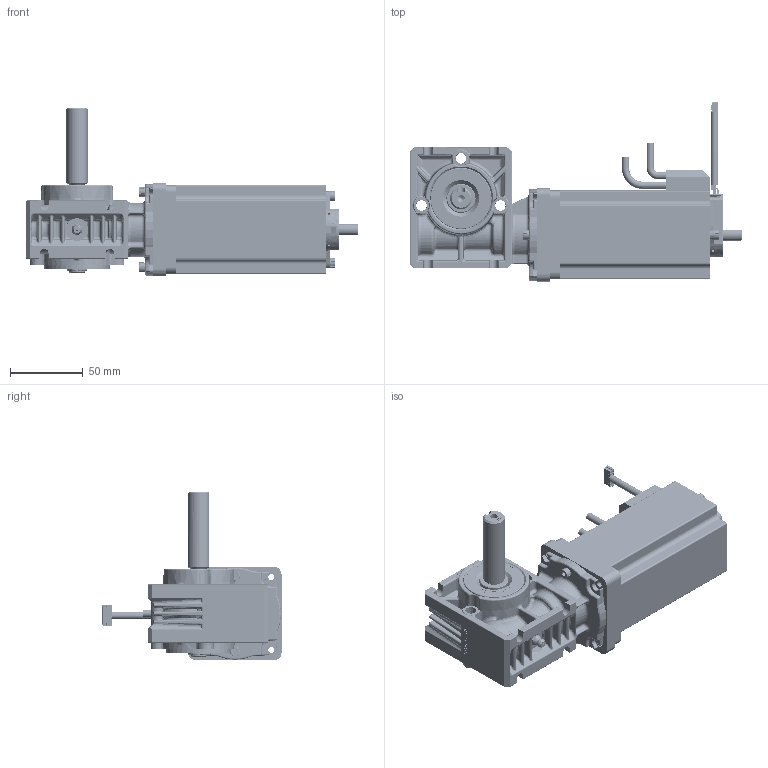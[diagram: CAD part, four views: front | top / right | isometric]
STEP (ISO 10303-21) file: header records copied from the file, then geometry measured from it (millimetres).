
FILE_DESCRIPTION (( 'STEP AP214' ), '1' );
FILE_NAME ('PBL60-70-GB28 - Encoder - Shaft.STEP', '2024-11-26T16:47:19', ( '' ), ( '' ), 'SwSTEP 2.0', 'SolidWorks 2023', '' );
FILE_SCHEMA (( 'AUTOMOTIVE_DESIGN' ));
Length unit declared in the file: millimetre
Products named in the file (1): PBL60-70-GB28 - Encoder - Shaft
Bounding box: 228 x 122.95 x 115.67 mm (x, y, z)
Surface area: 171054.4 mm2 (no closed solid volume)
Topology: 0 solids, 42 shells, 6748 faces, 17807 edges, 11305 vertices
Faces by surface type: plane 2781, cylinder 2212, bspline 1097, cone 365, torus 177, sphere 116
Entity records: 354467 total; most frequent: CARTESIAN_POINT 130119, ORIENTED_EDGE 35332, DIRECTION 24926, EDGE_CURVE 17668, VERTEX_POINT 11296, AXIS2_PLACEMENT_3D 9240, EDGE_LOOP 7294, B_SPLINE_CURVE_WITH_KNOTS 7157
